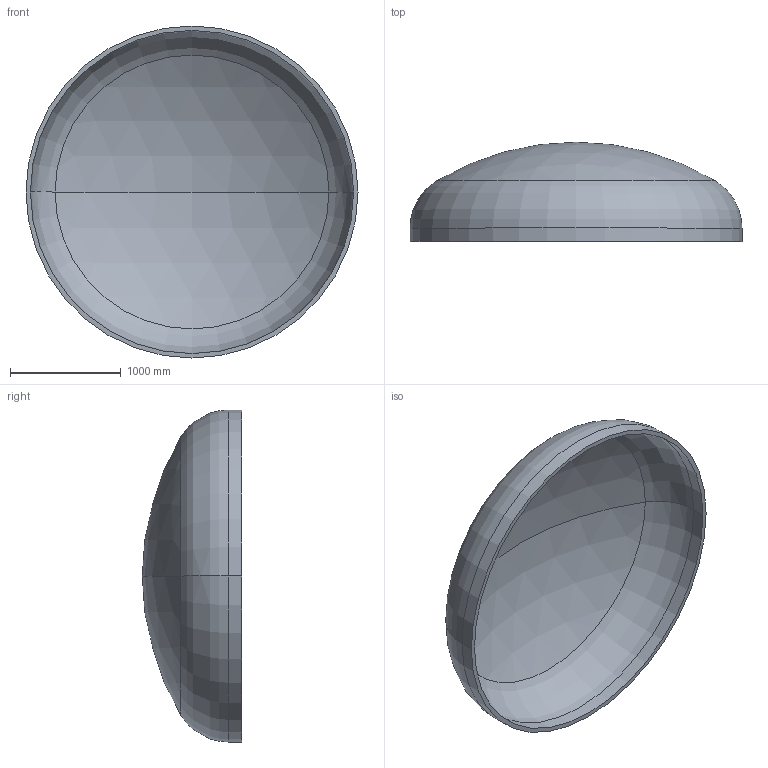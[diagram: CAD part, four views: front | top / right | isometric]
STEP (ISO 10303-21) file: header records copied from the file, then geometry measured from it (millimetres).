
FILE_DESCRIPTION (( 'STEP AP203' ), '1' );
FILE_NAME ('DIN 28013 Korbbogenform_-_Boden DIN 28013 - 3000 x 120 - I - s=40.step', '2016-07-01T17:46:00', ( '' ), ( '' ), 'SwSTEP 2.0', 'SolidWorks 2013', '' );
FILE_SCHEMA (( 'CONFIG_CONTROL_DESIGN' ));
Length unit declared in the file: millimetre
Products named in the file (1): DIN 28013 Korbbogenform_-_Boden DIN 28013 - 3000 x 120 - I - s=40
Bounding box: 3000 x 897.59 x 3000 mm (x, y, z)
Volume: 429063243.6 mm3; surface area: 21828470.2 mm2
Topology: 1 solids, 1 shells, 13 faces, 24 edges, 14 vertices
Faces by surface type: torus 4, cylinder 4, sphere 4, plane 1
Entity records: 407 total; most frequent: DIRECTION 72, CARTESIAN_POINT 52, ORIENTED_EDGE 48, AXIS2_PLACEMENT_3D 34, EDGE_CURVE 24, CIRCLE 20, VERTEX_POINT 14, EDGE_LOOP 14
